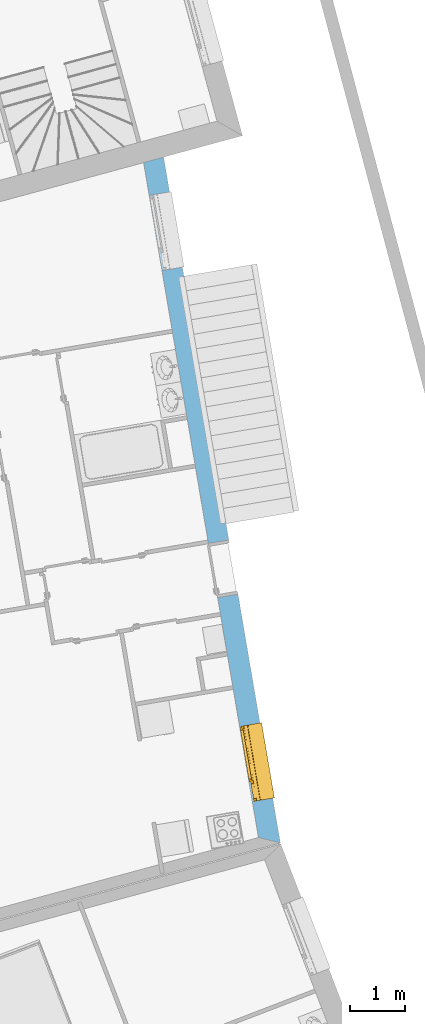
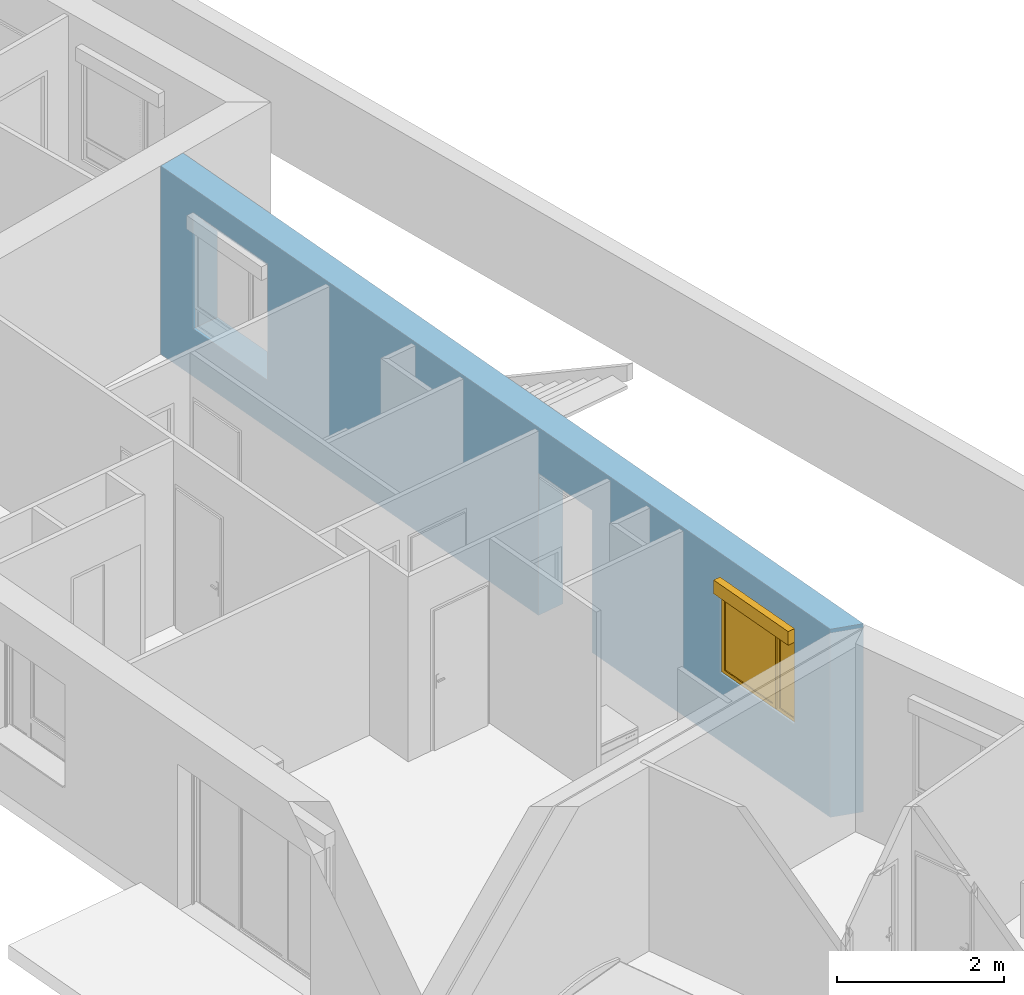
# One storey, part 91 of 195: 1 window, 3 openings, plus 1 element that does not belong to this part.
"""IFC2X3 building model written with IfcOpenShell, lengths in metres."""

from ifc_helpers import new_model, entity, si_unit, converted_unit, derived_unit, money_unit, direction, frame, origin_with_axes, origin_2d_with_axis, place, context, subcontext, project, spatial, polyline, rectangle, outline, extrude, open_shell, faceted_brep, surface_model, source, transform, mapped, material, layer, layer_set, layer_usage, type_object, element, fill, save


model = new_model("IFC2X3")

# Units and contexts
model_context = context("Model", 3, precision=1e-05, world=origin_with_axes(), true_north=direction((0.0, 1.0)))
body_context = subcontext(model_context, "Body", "Model", "MODEL_VIEW")
ifc_project = project(units=[si_unit("LENGTHUNIT", "METRE"), si_unit("AREAUNIT", "SQUARE_METRE"), si_unit("VOLUMEUNIT", "CUBIC_METRE"), converted_unit("PLANEANGLEUNIT", "DEGREE", entity("IfcPlaneAngleMeasure", 0.0174532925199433), si_unit("PLANEANGLEUNIT", "RADIAN"), dimensions=[0, 0, 0, 0, 0, 0, 0]), money_unit("CHF"), converted_unit("TIMEUNIT", "Year", entity("IfcTimeMeasure", 31557600.0), si_unit("TIMEUNIT", "SECOND"), dimensions=[0, 0, 1, 0, 0, 0, 0]), si_unit("MASSUNIT", "GRAM", prefix="KILO"), si_unit("THERMODYNAMICTEMPERATUREUNIT", "DEGREE_CELSIUS"), si_unit("LUMINOUSINTENSITYUNIT", "LUMEN"), si_unit("ENERGYUNIT", "JOULE", prefix="MEGA"), derived_unit("THERMALCONDUCTANCEUNIT", [(si_unit("POWERUNIT", "WATT"), 1), (si_unit("LENGTHUNIT", "METRE"), -1), (si_unit("THERMODYNAMICTEMPERATUREUNIT", "KELVIN"), -1)]), derived_unit("SPECIFICHEATCAPACITYUNIT", [(si_unit("ENERGYUNIT", "JOULE"), 1), (si_unit("MASSUNIT", "GRAM", prefix="KILO"), -1), (si_unit("THERMODYNAMICTEMPERATUREUNIT", "KELVIN"), -1)]), derived_unit("MASSDENSITYUNIT", [(si_unit("MASSUNIT", "GRAM", prefix="KILO"), 1), (si_unit("VOLUMEUNIT", "CUBIC_METRE"), -1)])], contexts=[model_context])

# Site, building, storey
site_placement = place(None, origin_with_axes())
site = spatial("IfcSite", under=ifc_project, at=site_placement, Name="Site", CompositionType="ELEMENT")
building_placement = place(site_placement, origin_with_axes())
building = spatial("IfcBuilding", under=site, at=building_placement, Name="Bâtiment", CompositionType="ELEMENT")
storey_placement = place(building_placement, origin_with_axes())
storey = spatial("IfcBuildingStorey", under=building, at=storey_placement, Name="rdc", CompositionType="ELEMENT", Elevation=0.0)

# Wall, openings, window
ifc_material_1 = material(Name="Parpaing 312445824")
ifc_layer_1 = layer(ifc_material_1, 0.22, ventilated="UNKNOWN")
ifc_material_2 = material(Name="Isolant styromousse 301821074")
ifc_layer_2 = layer(ifc_material_2, 0.16, ventilated="UNKNOWN")
ifc_layer_set = layer_set([ifc_layer_1, ifc_layer_2], Name="isol int 22+16 0836643197")
ifc_layer_usage = layer_usage(ifc_layer_set, "AXIS2", "NEGATIVE", 0.0)
wall_type = type_object("IfcWallType", Name="isol int 22+16 0836643197 380", PredefinedType="NOTDEFINED")
wall_placement = place(storey_placement, frame((9587.267838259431, -1021.018009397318, 57.7), z_axis=(0.0, 0.0, 1.0), x_axis=(0.1677527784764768, -0.9858290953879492, 0.0)))
wall = element("IfcWallStandardCase", 1, at=wall_placement, inside=storey, type_object=wall_type, material=ifc_layer_usage, Name="Mur-113", context=body_context, shape_type="SweptSolid", body=[
    extrude(outline(polyline([(0.03709306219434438, -0.3800000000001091), (12.59549387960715, -0.3800000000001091), (12.75935139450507, 0.0), (0.0, 0.0), (0.03709306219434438, -0.3800000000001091)])), origin_with_axes(), (0.0, 0.0, 1.0), 2.75),
])
opening_1_placement = place(wall_placement, frame((1.346512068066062, 0.0, 0.7000000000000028), z_axis=(0.0, 0.0, 1.0), x_axis=(1.0, 0.0, 0.0)))
element("IfcOpeningElement", 2, at=opening_1_placement, cuts=wall, Name="Fen-045", context=body_context, shape_type="Brep", body=[
    faceted_brep([(-0.6999999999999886, -0.2200000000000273, 1.5), (0.6999999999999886, -0.2200000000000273, 1.5), (0.700000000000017, 2.111085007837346, 1.5), (-0.6999999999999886, 2.111085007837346, 1.5), (-0.6999999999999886, -0.2200000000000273, 1.700000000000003), (0.6999999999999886, -0.2200000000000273, 1.700000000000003), (0.700000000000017, -0.2999999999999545, 1.5), (0.700000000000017, -0.2999999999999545, 0.0), (0.700000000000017, 2.111085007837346, 0.0), (-0.6999999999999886, 2.111085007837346, 0.0), (-0.6999999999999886, -0.2999999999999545, 1.5), (-0.6999999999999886, -0.2999999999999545, 0.0), (-0.6999999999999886, -0.4799999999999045, 1.5), (-0.6999999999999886, -0.4799999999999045, 1.700000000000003), (0.700000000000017, -0.4800000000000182, 1.700000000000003), (0.700000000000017, -0.4800000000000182, 1.5), (0.6999999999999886, -2.491085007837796, 1.5), (0.6999999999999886, -2.491085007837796, 0.0), (-0.6999999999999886, -2.491085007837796, 0.0), (-0.6999999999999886, -2.491085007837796, 1.5)], [[[0, 1, 2, 3]], [[1, 0, 4, 5]], [[1, 6, 7, 8, 2]], [[2, 8, 9, 3]], [[10, 0, 3, 9, 11]], [[0, 10, 12, 13, 4]], [[14, 5, 4, 13]], [[6, 1, 5, 14, 15]], [[6, 15, 16, 17, 7]], [[7, 11, 9, 8]], [[12, 10, 11, 18, 19]], [[12, 15, 14, 13]], [[15, 12, 19, 16]], [[19, 18, 17, 16]], [[11, 7, 17, 18]]]),
])
opening_2_placement = place(wall_placement, frame((7.627277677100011, 0.0, 0.0), z_axis=(0.0, 0.0, 1.0), x_axis=(1.0, 0.0, 0.0)))
element("IfcOpeningElement", 3, at=opening_2_placement, cuts=wall, Name="Por-290", context=body_context, shape_type="SweptSolid", body=[
    extrude(rectangle(XDim=1.01000001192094, YDim=2.079999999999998, at=origin_2d_with_axis()), frame((-5.960487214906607e-09, 0.3799999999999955, 1.039999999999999), z_axis=(0.0, -1.0, 0.0), x_axis=(-1.0, 0.0, 0.0)), (0.0, 0.0, 1.0), 0.76),
])
opening_3_placement = place(wall_placement, frame((11.22808404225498, 0.0, 1.0), z_axis=(0.0, 0.0, 1.0), x_axis=(1.0, 0.0, 0.0)))
opening_3 = element("IfcOpeningElement", 4, at=opening_3_placement, cuts=wall, Name="Fen-045", context=body_context, shape_type="Brep", body=[
    faceted_brep([(-0.700000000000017, -0.2200000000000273, 1.200000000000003), (0.6999999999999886, -0.2200000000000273, 1.200000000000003), (0.6999999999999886, 2.11108500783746, 1.200000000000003), (-0.700000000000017, 2.11108500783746, 1.200000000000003), (-0.700000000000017, -0.2200000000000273, 1.399999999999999), (0.6999999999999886, -0.2200000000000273, 1.399999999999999), (0.700000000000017, -0.2999999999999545, 1.200000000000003), (0.700000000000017, -0.2999999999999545, 0.0), (0.6999999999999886, 2.11108500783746, 0.0), (-0.700000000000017, 2.11108500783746, 0.0), (-0.700000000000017, -0.2999999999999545, 1.200000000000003), (-0.700000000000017, -0.2999999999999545, 0.0), (-0.700000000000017, -0.4800000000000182, 1.200000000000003), (-0.700000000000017, -0.4800000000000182, 1.399999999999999), (0.700000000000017, -0.4800000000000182, 1.399999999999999), (0.700000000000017, -0.4800000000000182, 1.200000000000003), (0.6999999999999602, -2.491085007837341, 1.200000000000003), (0.6999999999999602, -2.491085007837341, 0.0), (-0.700000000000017, -2.491085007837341, 0.0), (-0.700000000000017, -2.491085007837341, 1.200000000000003)], [[[0, 1, 2, 3]], [[1, 0, 4, 5]], [[1, 6, 7, 8, 2]], [[2, 8, 9, 3]], [[10, 0, 3, 9, 11]], [[0, 10, 12, 13, 4]], [[14, 5, 4, 13]], [[6, 1, 5, 14, 15]], [[6, 15, 16, 17, 7]], [[7, 11, 9, 8]], [[12, 10, 11, 18, 19]], [[12, 15, 14, 13]], [[15, 12, 19, 16]], [[19, 18, 17, 16]], [[11, 7, 17, 18]]]),
])
window_style = type_object("IfcWindowStyle", Name="Fenêtre variable 27", ConstructionType="NOTDEFINED", OperationType="DOUBLE_PANEL_VERTICAL", ParameterTakesPrecedence=False, Sizeable=False)
shared_shape = source(origin_with_axes(), body_context, "Body", "SurfaceModel", [
    surface_model("IfcShellBasedSurfaceModel", [(0.7, -0.05100000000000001, 0.05), (-0.7, -0.05100000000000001, 0.05000000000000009), (-0.7, -0.05100000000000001, 0.04000000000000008), (0.7, -0.05100000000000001, 0.04), (-0.7, -0.3799999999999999, 0.02900000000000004), (0.7, -0.3799999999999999, 0.02899999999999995), (-0.7, -0.3799999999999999, 0.00900000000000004), (0.7, -0.3799999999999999, 0.008999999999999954), (-0.7, -0.3699999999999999, 0.01900000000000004), (0.7, -0.3699999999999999, 0.01899999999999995)], [open_shell([[[0, 1, 2, 3]], [[3, 2, 4, 5]], [[5, 4, 6, 7]], [[7, 6, 8, 9]]])]),
    faceted_brep([(0.7, -0.13, 1.4), (0.7, 0.13, 1.4), (0.697, 0.13, 1.4), (0.697, -0.13, 1.4), (0.7, -0.13, 1.2), (0.7, 0.13, 1.2), (0.697, 0.13, 1.2), (0.697, -0.13, 1.2)], [[[0, 1, 2, 3]], [[0, 4, 5, 1]], [[1, 5, 6, 2]], [[3, 2, 6, 7]], [[4, 0, 3, 7]], [[5, 4, 7, 6]]]),
    faceted_brep([(-0.6970000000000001, -0.1299999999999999, 1.4), (-0.6970000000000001, 0.1300000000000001, 1.4), (-0.7000000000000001, 0.1300000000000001, 1.4), (-0.7000000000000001, -0.1299999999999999, 1.4), (-0.6970000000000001, -0.1299999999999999, 1.2), (-0.6970000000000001, 0.1300000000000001, 1.2), (-0.7000000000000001, 0.1300000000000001, 1.2), (-0.7000000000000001, -0.1299999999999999, 1.2)], [[[0, 1, 2, 3]], [[0, 4, 5, 1]], [[1, 5, 6, 2]], [[3, 2, 6, 7]], [[4, 0, 3, 7]], [[5, 4, 7, 6]]]),
    faceted_brep([(0.697, -0.13, 1.2), (0.697, -0.13, 1.4), (-0.697, -0.1299999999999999, 1.4), (-0.697, -0.1299999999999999, 1.2), (0.697, -0.127, 1.2), (0.697, -0.127, 1.397), (0.697, 0.127, 1.397), (0.697, 0.127, 1.203), (0.697, -0.108, 1.203), (0.697, -0.108, 1.2), (0.697, 0.13, 1.2), (0.697, 0.13, 1.4), (-0.697, 0.1300000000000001, 1.4), (-0.697, 0.1300000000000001, 1.2), (-0.697, -0.1079999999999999, 1.2), (-0.697, -0.1079999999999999, 1.203), (-0.697, 0.1270000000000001, 1.203), (-0.697, 0.1270000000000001, 1.397), (-0.697, -0.1269999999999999, 1.397), (-0.697, -0.1269999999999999, 1.2)], [[[0, 1, 2, 3]], [[0, 4, 5, 6, 7, 8, 9, 10, 11, 1]], [[1, 11, 12, 2]], [[3, 2, 12, 13, 14, 15, 16, 17, 18, 19]], [[4, 0, 3, 19]], [[5, 4, 19, 18]], [[6, 5, 18, 17]], [[7, 6, 17, 16]], [[8, 7, 16, 15]], [[9, 8, 15, 14]], [[10, 9, 14, 13]], [[11, 10, 13, 12]]]),
    faceted_brep([(0.694, -0.08075423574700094, 1.285760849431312), (0.694, -0.07705479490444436, 1.271954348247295), (0.694, -0.07101408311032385, 1.259), (0.694, -0.06281564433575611, 1.247291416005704), (0.694, -0.05270858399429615, 1.237184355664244), (0.694, -0.04099999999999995, 1.228985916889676), (0.694, -0.02804565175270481, 1.222945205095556), (0.694, -0.01423915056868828, 1.219245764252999), (0.694, 0.0, 1.218), (0.694, 0.01423915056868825, 1.219245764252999), (0.694, 0.02804565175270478, 1.222945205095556), (0.694, 0.04099999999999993, 1.228985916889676), (0.694, 0.05270858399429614, 1.237184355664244), (0.694, 0.06281564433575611, 1.247291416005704), (0.694, 0.07101408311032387, 1.259), (0.694, 0.07705479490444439, 1.271954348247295), (0.694, 0.08075423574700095, 1.285760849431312), (0.694, 0.0819999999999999, 1.3), (0.694, 0.08075423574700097, 1.314239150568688), (0.694, 0.0770547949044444, 1.328045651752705), (0.694, 0.07101408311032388, 1.341), (0.694, 0.06281564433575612, 1.352708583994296), (0.694, 0.05270858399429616, 1.362815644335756), (0.694, 0.04099999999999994, 1.371014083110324), (0.694, 0.02804565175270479, 1.377054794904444), (0.694, 0.01423915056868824, 1.380754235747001), (0.694, 0.0, 1.382), (0.694, -0.01423915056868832, 1.380754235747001), (0.694, -0.02804565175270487, 1.377054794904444), (0.694, -0.04100000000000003, 1.371014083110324), (0.694, -0.05270858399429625, 1.362815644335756), (0.694, -0.06281564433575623, 1.352708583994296), (0.694, -0.07101408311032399, 1.341), (0.694, -0.07705479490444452, 1.328045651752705), (0.694, -0.0807542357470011, 1.314239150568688), (0.694, -0.08200000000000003, 1.3), (-0.694, -0.08075423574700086, 1.285760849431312), (-0.694, -0.07705479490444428, 1.271954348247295), (-0.694, -0.07101408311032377, 1.259), (-0.694, -0.06281564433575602, 1.247291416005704), (-0.694, -0.05270858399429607, 1.237184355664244), (-0.694, -0.04099999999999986, 1.228985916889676), (-0.694, -0.02804565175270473, 1.222945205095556), (-0.694, -0.0142391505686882, 1.219245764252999), (-0.694, 0.0, 1.218), (-0.694, 0.01423915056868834, 1.219245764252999), (-0.694, 0.02804565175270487, 1.222945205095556), (-0.694, 0.04100000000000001, 1.228985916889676), (-0.694, 0.05270858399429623, 1.237184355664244), (-0.694, 0.06281564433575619, 1.247291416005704), (-0.694, 0.07101408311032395, 1.259), (-0.694, 0.07705479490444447, 1.271954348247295), (-0.694, 0.08075423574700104, 1.285760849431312), (-0.694, 0.08199999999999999, 1.3), (-0.694, 0.08075423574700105, 1.314239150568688), (-0.694, 0.07705479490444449, 1.328045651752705), (-0.694, 0.07101408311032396, 1.341), (-0.694, 0.0628156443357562, 1.352708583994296), (-0.694, 0.05270858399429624, 1.362815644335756), (-0.694, 0.04100000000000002, 1.371014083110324), (-0.694, 0.02804565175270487, 1.377054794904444), (-0.694, 0.01423915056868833, 1.380754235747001), (-0.694, 0.0, 1.382), (-0.694, -0.01423915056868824, 1.380754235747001), (-0.694, -0.02804565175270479, 1.377054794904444), (-0.694, -0.04099999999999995, 1.371014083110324), (-0.694, -0.05270858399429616, 1.362815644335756), (-0.694, -0.06281564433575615, 1.352708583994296), (-0.694, -0.07101408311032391, 1.341), (-0.694, -0.07705479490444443, 1.328045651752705), (-0.694, -0.08075423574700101, 1.314239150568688), (-0.694, -0.08199999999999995, 1.3)], [[[0, 1, 2, 3, 4, 5, 6, 7, 8, 9, 10, 11, 12, 13, 14, 15, 16, 17, 18, 19, 20, 21, 22, 23, 24, 25, 26, 27, 28, 29, 30, 31, 32, 33, 34, 35]], [[1, 0, 36, 37]], [[2, 1, 37, 38]], [[3, 2, 38, 39]], [[4, 3, 39, 40]], [[5, 4, 40, 41]], [[6, 5, 41, 42]], [[7, 6, 42, 43]], [[8, 7, 43, 44]], [[9, 8, 44, 45]], [[10, 9, 45, 46]], [[11, 10, 46, 47]], [[12, 11, 47, 48]], [[13, 12, 48, 49]], [[14, 13, 49, 50]], [[15, 14, 50, 51]], [[16, 15, 51, 52]], [[17, 16, 52, 53]], [[18, 17, 53, 54]], [[19, 18, 54, 55]], [[20, 19, 55, 56]], [[21, 20, 56, 57]], [[22, 21, 57, 58]], [[23, 22, 58, 59]], [[24, 23, 59, 60]], [[25, 24, 60, 61]], [[26, 25, 61, 62]], [[27, 26, 62, 63]], [[28, 27, 63, 64]], [[29, 28, 64, 65]], [[30, 29, 65, 66]], [[31, 30, 66, 67]], [[32, 31, 67, 68]], [[33, 32, 68, 69]], [[34, 33, 69, 70]], [[35, 34, 70, 71]], [[0, 35, 71, 36]], [[36, 71, 70, 69, 68, 67, 66, 65, 64, 63, 62, 61, 60, 59, 58, 57, 56, 55, 54, 53, 52, 51, 50, 49, 48, 47, 46, 45, 44, 43, 42, 41, 40, 39, 38, 37]]]),
    faceted_brep([(-0.7, -0.105, 0.03), (-0.7, -0.13, 0.03), (-0.7, -0.1299999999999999, 1.2), (-0.7, -0.1049999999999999, 1.2), (-0.6749999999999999, -0.105, 0.03), (-0.6749999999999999, -0.108, 0.03), (-0.697, -0.108, 0.03), (-0.697, -0.127, 0.03), (-0.6749999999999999, -0.127, 0.03), (-0.6749999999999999, -0.13, 0.03), (-0.6749999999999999, -0.1299999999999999, 1.2), (-0.6749999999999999, -0.1269999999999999, 1.2), (-0.697, -0.1269999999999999, 1.2), (-0.697, -0.1079999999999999, 1.2), (-0.6749999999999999, -0.1079999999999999, 1.2), (-0.6749999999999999, -0.1049999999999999, 1.2)], [[[0, 1, 2, 3]], [[0, 4, 5, 6, 7, 8, 9, 1]], [[1, 9, 10, 2]], [[3, 2, 10, 11, 12, 13, 14, 15]], [[4, 0, 3, 15]], [[5, 4, 15, 14]], [[6, 5, 14, 13]], [[7, 6, 13, 12]], [[8, 7, 12, 11]], [[9, 8, 11, 10]]]),
    faceted_brep([(0.7, -0.105, 0.03), (0.7, -0.1049999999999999, 1.2), (0.7, -0.1299999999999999, 1.2), (0.7, -0.13, 0.03), (0.6749999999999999, -0.105, 0.03), (0.6749999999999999, -0.1049999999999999, 1.2), (0.6749999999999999, -0.1079999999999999, 1.2), (0.697, -0.1079999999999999, 1.2), (0.697, -0.1269999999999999, 1.2), (0.6749999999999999, -0.1269999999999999, 1.2), (0.6749999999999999, -0.1299999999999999, 1.2), (0.6749999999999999, -0.13, 0.03), (0.6749999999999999, -0.127, 0.03), (0.697, -0.127, 0.03), (0.697, -0.108, 0.03), (0.6749999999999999, -0.108, 0.03)], [[[0, 1, 2, 3]], [[4, 5, 1, 0]], [[1, 5, 6, 7, 8, 9, 10, 2]], [[3, 2, 10, 11]], [[0, 3, 11, 12, 13, 14, 15, 4]], [[15, 6, 5, 4]], [[14, 7, 6, 15]], [[13, 8, 7, 14]], [[12, 9, 8, 13]], [[11, 10, 9, 12]]]),
    surface_model("IfcShellBasedSurfaceModel", [(0.697, -0.115, 1.3), (-0.697, -0.1149999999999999, 1.3), (-0.697, -0.12, 1.3), (0.697, -0.12, 1.3), (0.697, -0.115, 1.3), (0.697, -0.12, 1.3), (-0.697, -0.1199999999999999, 1.3), (-0.697, -0.1149999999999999, 1.3)], [open_shell([[[0, 1, 2, 3]], [[4, 5, 6, 7]]])]),
    faceted_brep([(0.697, -0.115, 1.3), (0.697, -0.1166666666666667, 1.283333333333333), (-0.697, -0.1166666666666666, 1.283333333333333), (-0.697, -0.1149999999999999, 1.3), (0.697, -0.12, 1.3), (0.697, -0.1216666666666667, 1.283333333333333), (0.697, -0.1216666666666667, 1.266666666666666), (0.697, -0.12, 1.25), (0.697, -0.115, 1.25), (0.697, -0.1166666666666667, 1.266666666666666), (-0.697, -0.1166666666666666, 1.266666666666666), (-0.697, -0.1149999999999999, 1.25), (-0.697, -0.1199999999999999, 1.25), (-0.697, -0.1216666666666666, 1.266666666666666), (-0.697, -0.1216666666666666, 1.283333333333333), (-0.697, -0.1199999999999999, 1.3)], [[[0, 1, 2, 3]], [[0, 4, 5, 6, 7, 8, 9, 1]], [[1, 9, 10, 2]], [[3, 2, 10, 11, 12, 13, 14, 15]], [[4, 0, 3, 15]], [[5, 4, 15, 14]], [[6, 5, 14, 13]], [[7, 6, 13, 12]], [[8, 7, 12, 11]], [[9, 8, 11, 10]]]),
    faceted_brep([(0.697, -0.115, 1.25), (0.697, -0.1166666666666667, 1.233333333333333), (-0.697, -0.1166666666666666, 1.233333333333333), (-0.697, -0.1149999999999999, 1.25), (0.697, -0.12, 1.25), (0.697, -0.1216666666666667, 1.233333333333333), (0.697, -0.1216666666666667, 1.216666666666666), (0.697, -0.12, 1.2), (0.697, -0.115, 1.2), (0.697, -0.1166666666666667, 1.216666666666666), (-0.697, -0.1166666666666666, 1.216666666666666), (-0.697, -0.1149999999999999, 1.2), (-0.697, -0.1199999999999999, 1.2), (-0.697, -0.1216666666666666, 1.216666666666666), (-0.697, -0.1216666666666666, 1.233333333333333), (-0.697, -0.1199999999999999, 1.25)], [[[0, 1, 2, 3]], [[0, 4, 5, 6, 7, 8, 9, 1]], [[1, 9, 10, 2]], [[3, 2, 10, 11, 12, 13, 14, 15]], [[4, 0, 3, 15]], [[5, 4, 15, 14]], [[6, 5, 14, 13]], [[7, 6, 13, 12]], [[8, 7, 12, 11]], [[9, 8, 11, 10]]]),
    faceted_brep([(0.6749999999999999, 0.0, 1.15), (0.6749999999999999, -0.02500000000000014, 1.15), (0.6499999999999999, -0.02500000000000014, 1.15), (0.6499999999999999, -0.05000000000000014, 1.15), (0.7, -0.05000000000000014, 1.15), (0.7, 0.0, 1.15), (0.6749999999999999, 0.0, 0.05000000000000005), (0.6749999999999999, -0.02500000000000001, 0.05000000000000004), (0.6499999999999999, -0.02500000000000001, 0.05000000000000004), (0.6499999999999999, -0.05000000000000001, 0.05000000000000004), (0.7, -0.05000000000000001, 0.05000000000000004), (0.7, 0.0, 0.05000000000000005)], [[[0, 1, 2, 3, 4, 5]], [[1, 0, 6, 7]], [[8, 2, 1, 7]], [[2, 8, 9, 3]], [[4, 3, 9, 10]], [[5, 4, 10, 11]], [[6, 0, 5, 11]], [[7, 6, 11, 10, 9, 8]]]),
    faceted_brep([(-0.3068894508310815, -0.02500000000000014, 1.15), (-0.3318894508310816, -0.02500000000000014, 1.15), (-0.3318894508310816, 0.0, 1.15), (-0.3768894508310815, 0.0, 1.15), (-0.3768894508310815, -0.05000000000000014, 1.15), (-0.3068894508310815, -0.05000000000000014, 1.15), (-0.3068894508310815, -0.02500000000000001, 0.05000000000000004), (-0.3318894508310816, -0.02500000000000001, 0.05000000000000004), (-0.3318894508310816, 0.0, 0.05000000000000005), (-0.3768894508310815, 0.0, 0.05000000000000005), (-0.3768894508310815, -0.05000000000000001, 0.05000000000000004), (-0.3068894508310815, -0.05000000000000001, 0.05000000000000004)], [[[0, 1, 2, 3, 4, 5]], [[1, 0, 6, 7]], [[8, 2, 1, 7]], [[2, 8, 9, 3]], [[9, 10, 4, 3]], [[10, 11, 5, 4]], [[6, 0, 5, 11]], [[7, 6, 11, 10, 9, 8]]]),
    faceted_brep([(-0.3068894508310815, -0.02500000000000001, 0.05000000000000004), (-0.3318894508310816, -0.02500000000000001, 0.05000000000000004), (-0.3318894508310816, 0.0, 0.05000000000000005), (-0.3768894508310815, 0.0, 0.05000000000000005), (-0.3768894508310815, -0.05000000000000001, 0.05000000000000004), (-0.3068894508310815, -0.05000000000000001, 0.05000000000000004), (0.6499999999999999, -0.02500000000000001, 0.05000000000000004), (0.6749999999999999, -0.02500000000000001, 0.05000000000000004), (0.6749999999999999, -0.025, 0.02500000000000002), (-0.3318894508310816, -0.025, 0.02500000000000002), (-0.3318894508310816, 0.0, 0.02500000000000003), (0.6749999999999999, 0.0, 0.02500000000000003), (0.6749999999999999, 0.0, 0.05000000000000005), (0.7, 0.0, 0.05000000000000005), (0.7, 0.0, 0.0), (-0.7, 0.0, 0.0), (-0.7, 0.0, 0.05000000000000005), (-0.6499999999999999, 0.0, 0.05000000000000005), (-0.6499999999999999, -0.05000000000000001, 0.05000000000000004), (0.7, -0.05000000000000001, 0.05000000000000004), (0.6499999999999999, -0.05000000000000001, 0.05000000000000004), (-0.7, -0.05000000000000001, 0.05000000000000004), (-0.7, -0.05, 0.0), (0.7, -0.05, 0.0)], [[[0, 1, 2, 3, 4, 5]], [[1, 0, 6, 7, 8, 9]], [[10, 2, 1, 9]], [[11, 12, 13, 14, 15, 16, 17, 3, 2, 10]], [[17, 18, 4, 3]], [[19, 20, 5, 4, 18, 21, 22, 23]], [[6, 0, 5, 20]], [[7, 6, 20, 19, 13, 12]], [[7, 12, 11, 8]], [[11, 10, 9, 8]], [[13, 19, 23, 14]], [[14, 23, 22, 15]], [[15, 22, 21, 16]], [[16, 21, 18, 17]]]),
    faceted_brep([(0.6749999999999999, 0.0, 1.15), (0.6749999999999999, 0.0, 1.175), (-0.3318894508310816, 0.0, 1.175), (-0.3318894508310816, 0.0, 1.15), (-0.3768894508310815, 0.0, 1.15), (-0.6499999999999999, 0.0, 1.15), (-0.7, 0.0, 1.15), (-0.7, 0.0, 1.2), (0.7, 0.0, 1.2), (0.7, 0.0, 1.15), (0.6749999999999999, -0.02500000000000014, 1.15), (0.6749999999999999, -0.02500000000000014, 1.175), (-0.3318894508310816, -0.02500000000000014, 1.175), (-0.3318894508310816, -0.02500000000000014, 1.15), (-0.3068894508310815, -0.02500000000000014, 1.15), (-0.3068894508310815, -0.05000000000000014, 1.15), (-0.3768894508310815, -0.05000000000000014, 1.15), (-0.6499999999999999, -0.05000000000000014, 1.15), (-0.7, -0.05000000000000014, 1.15), (-0.7, -0.05000000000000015, 1.2), (0.7, -0.05000000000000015, 1.2), (0.7, -0.05000000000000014, 1.15), (0.6499999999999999, -0.05000000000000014, 1.15), (0.6499999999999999, -0.02500000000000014, 1.15)], [[[0, 1, 2, 3, 4, 5, 6, 7, 8, 9]], [[1, 0, 10, 11]], [[2, 1, 11, 12]], [[3, 2, 12, 13]], [[13, 14, 15, 16, 4, 3]], [[4, 16, 17, 5]], [[5, 17, 18, 6]], [[6, 18, 19, 7]], [[7, 19, 20, 8]], [[8, 20, 21, 9]], [[10, 0, 9, 21, 22, 23]], [[14, 13, 12, 11, 10, 23]], [[14, 23, 22, 15]], [[16, 15, 22, 21, 20, 19, 18, 17]]]),
    faceted_brep([(-0.6499999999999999, -0.05000000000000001, 0.05), (-0.7, -0.05000000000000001, 0.05), (-0.7, 0.0, 0.05000000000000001), (-0.6499999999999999, 0.0, 0.05000000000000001), (-0.6499999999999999, -0.05000000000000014, 1.15), (-0.7, -0.05000000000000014, 1.15), (-0.7, 0.0, 1.15), (-0.6499999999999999, 0.0, 1.15)], [[[0, 1, 2, 3]], [[0, 4, 5, 1]], [[1, 5, 6, 2]], [[3, 2, 6, 7]], [[4, 0, 3, 7]], [[5, 4, 7, 6]]]),
    faceted_brep([(0.625, -0.02500000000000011, 1.125), (0.6749999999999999, -0.02500000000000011, 1.125), (0.6749999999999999, 0.0249999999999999, 1.125), (0.625, 0.0249999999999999, 1.125), (0.625, -0.02499999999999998, 0.07500000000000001), (0.6749999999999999, -0.02499999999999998, 0.07500000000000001), (0.6749999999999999, 0.02500000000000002, 0.07500000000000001), (0.625, 0.02500000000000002, 0.07500000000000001)], [[[0, 1, 2, 3]], [[0, 4, 5, 1]], [[1, 5, 6, 2]], [[3, 2, 6, 7]], [[4, 0, 3, 7]], [[5, 4, 7, 6]]]),
    faceted_brep([(-0.2818894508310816, -0.02500000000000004, 0.07500000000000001), (-0.3318894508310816, -0.02500000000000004, 0.07500000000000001), (-0.3318894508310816, 0.02499999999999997, 0.07500000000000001), (-0.2818894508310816, 0.02499999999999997, 0.07500000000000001), (-0.2818894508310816, -0.02500000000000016, 1.125), (-0.3318894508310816, -0.02500000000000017, 1.125), (-0.3318894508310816, 0.02499999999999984, 1.125), (-0.2818894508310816, 0.02499999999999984, 1.125)], [[[0, 1, 2, 3]], [[0, 4, 5, 1]], [[1, 5, 6, 2]], [[3, 2, 6, 7]], [[4, 0, 3, 7]], [[5, 4, 7, 6]]]),
    faceted_brep([(-0.3318894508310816, -0.02500000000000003, 0.025), (-0.3318894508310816, -0.02500000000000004, 0.07500000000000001), (-0.3318894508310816, 0.02499999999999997, 0.07500000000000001), (-0.3318894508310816, 0.02499999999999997, 0.02500000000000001), (0.6749999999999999, -0.02499999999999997, 0.025), (0.6749999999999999, -0.02499999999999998, 0.07500000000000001), (0.625, -0.02499999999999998, 0.07500000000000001), (-0.2818894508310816, -0.02500000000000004, 0.07500000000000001), (-0.2818894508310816, 0.02499999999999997, 0.07500000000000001), (0.625, 0.02500000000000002, 0.07500000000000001), (0.6749999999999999, 0.02500000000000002, 0.07500000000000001), (0.6749999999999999, 0.02500000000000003, 0.02500000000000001)], [[[0, 1, 2, 3]], [[0, 4, 5, 6, 7, 1]], [[1, 7, 8, 2]], [[3, 2, 8, 9, 10, 11]], [[4, 0, 3, 11]], [[5, 4, 11, 10]], [[6, 5, 10, 9]], [[7, 6, 9, 8]]]),
    faceted_brep([(0.6749999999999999, -0.02500000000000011, 1.175), (0.6749999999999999, -0.02500000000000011, 1.125), (0.6749999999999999, 0.0249999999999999, 1.125), (0.6749999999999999, 0.02499999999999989, 1.175), (-0.3318894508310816, -0.02500000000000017, 1.175), (-0.3318894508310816, -0.02500000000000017, 1.125), (-0.2818894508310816, -0.02500000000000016, 1.125), (0.625, -0.02500000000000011, 1.125), (0.625, 0.0249999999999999, 1.125), (-0.2818894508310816, 0.02499999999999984, 1.125), (-0.3318894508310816, 0.02499999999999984, 1.125), (-0.3318894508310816, 0.02499999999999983, 1.175)], [[[0, 1, 2, 3]], [[0, 4, 5, 6, 7, 1]], [[1, 7, 8, 2]], [[3, 2, 8, 9, 10, 11]], [[4, 0, 3, 11]], [[5, 4, 11, 10]], [[6, 5, 10, 9]], [[7, 6, 9, 8]]]),
    surface_model("IfcShellBasedSurfaceModel", [(0.625, -0.01000000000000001, 0.07500000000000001), (0.625, -0.01000000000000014, 1.125), (-0.2818894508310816, -0.01000000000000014, 1.125), (-0.2818894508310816, -0.01000000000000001, 0.07500000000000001)], [open_shell([[[0, 1, 2, 3]]])]),
    surface_model("IfcShellBasedSurfaceModel", [(0.625, 0.009999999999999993, 0.07500000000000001), (-0.2818894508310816, 0.009999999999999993, 0.07500000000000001), (-0.2818894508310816, 0.009999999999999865, 1.125), (0.625, 0.009999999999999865, 1.125)], [open_shell([[[0, 1, 2, 3]]])]),
    surface_model("IfcShellBasedSurfaceModel", [(-0.3768894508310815, -0.035, 0.05), (-0.3768894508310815, -0.03500000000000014, 1.15), (-0.65, -0.03500000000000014, 1.15), (-0.65, -0.035, 0.05)], [open_shell([[[0, 1, 2, 3]]])]),
    surface_model("IfcShellBasedSurfaceModel", [(-0.3768894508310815, -0.015, 0.05), (-0.65, -0.015, 0.05), (-0.65, -0.01500000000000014, 1.15), (-0.3768894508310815, -0.01500000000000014, 1.15)], [open_shell([[[0, 1, 2, 3]]])]),
])
window_placement = place(opening_3_placement, frame((0.6999999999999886, 0.0, 0.0), z_axis=(0.0, 0.0, 1.0), x_axis=(-1.0, 0.0, 0.0)))
window = element("IfcWindow", 5, at=window_placement, inside=storey, type_object=window_style, Name="Fen-045", OverallHeight=1.2, OverallWidth=1.4, context=body_context, shape_type="MappedRepresentation", body=[
    mapped(shared_shape, transform((0.6999999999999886, 0.3500000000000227, 0.0))),
])
fill(opening_3, window)

save(model, "model.ifc")
